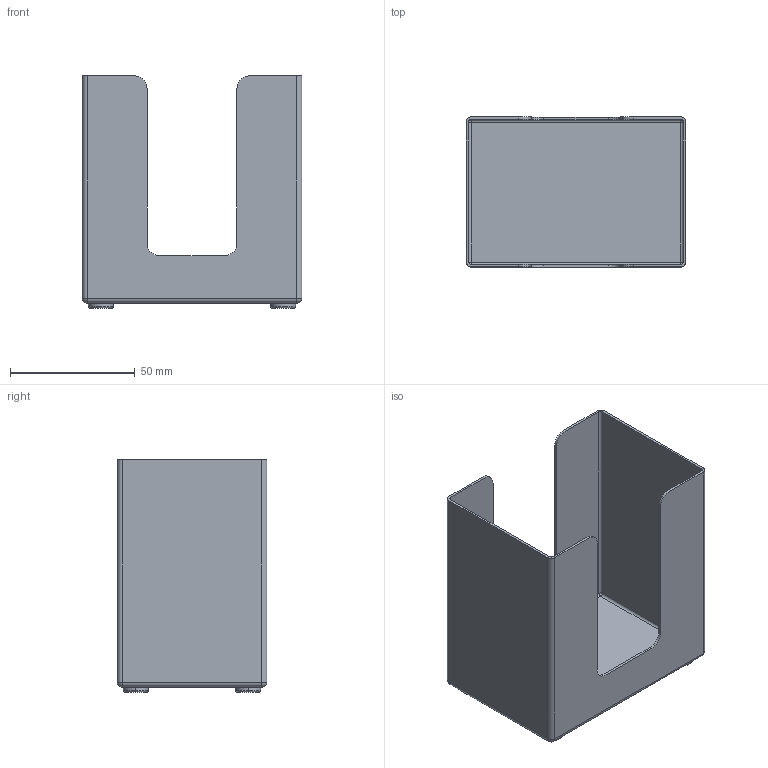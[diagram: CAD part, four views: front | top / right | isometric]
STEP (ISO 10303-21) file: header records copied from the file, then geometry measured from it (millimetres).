
FILE_DESCRIPTION (( 'STEP AP203' ), '1' );
FILE_NAME ('Pojemnik na pa³eczki LOPAKO.STEP', '2021-11-04T08:53:01', ( '' ), ( '' ), 'SwSTEP 2.0', 'SolidWorks 2021', '' );
FILE_SCHEMA (( 'CONFIG_CONTROL_DESIGN' ));
Length unit declared in the file: millimetre
Products named in the file (1): Pojemnik na pa³eczki LOPAKO
Bounding box: 88 x 60 x 93 mm (x, y, z)
Volume: 26574.9 mm3; surface area: 52692.7 mm2
Topology: 1 solids, 1 shells, 70 faces, 168 edges, 96 vertices
Faces by surface type: cylinder 32, plane 22, torus 8, sphere 8
Entity records: 2045 total; most frequent: DIRECTION 382, CARTESIAN_POINT 327, ORIENTED_EDGE 320, EDGE_CURVE 160, AXIS2_PLACEMENT_3D 151, VERTEX_POINT 96, VECTOR 80, LINE 80
